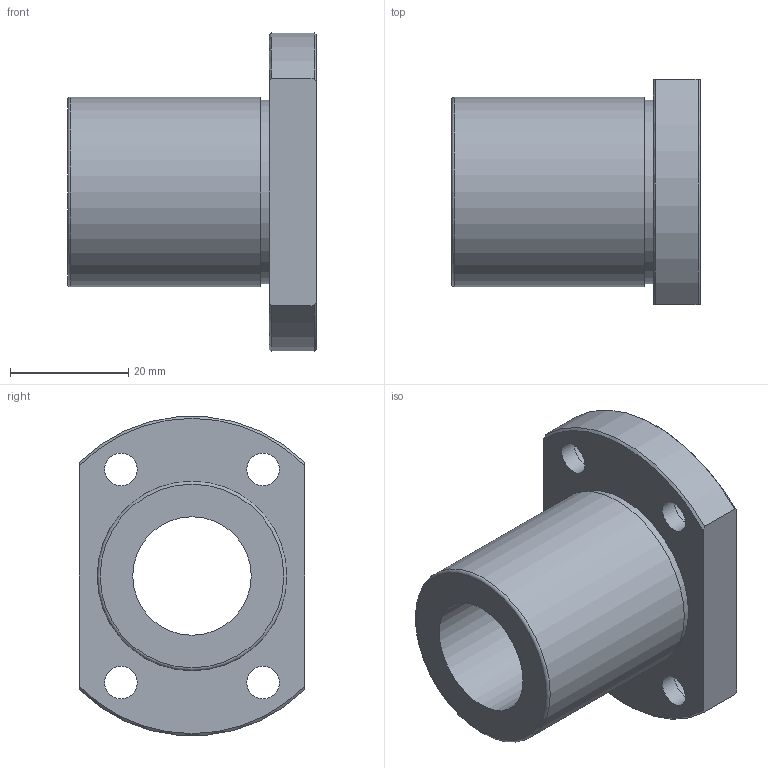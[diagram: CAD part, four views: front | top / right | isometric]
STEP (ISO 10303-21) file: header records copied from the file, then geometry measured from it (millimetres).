
FILE_DESCRIPTION(('STEP AP203'),'1');
FILE_NAME('//192.168.1.1/share/s-4 技術開発/s-4-4_CAD/s-4-4-3_見直し済み/002 修正済み/NFEO-V(済)/NFEO-V_TOP/NFEO-20VUU.step','2022-03-08T01:29:03',(' '),(' '),'Spatial InterOp 3D',' ',' ');
FILE_SCHEMA(('CONFIG_CONTROL_DESIGN'));
Length unit declared in the file: millimetre
Products named in the file (1): 1
Bounding box: 42 x 38 x 53.8 mm (x, y, z)
Volume: 27419.9 mm3; surface area: 11070.5 mm2
Topology: 1 solids, 1 shells, 28 faces, 59 edges, 39 vertices
Faces by surface type: cylinder 13, plane 10, cone 4, torus 1
Full cylindrical faces by diameter (mm): 5.5 x4, 9 x4, 20 x1, 31 x1, 32 x1
Entity records: 778 total; most frequent: CARTESIAN_POINT 139, DIRECTION 128, ORIENTED_EDGE 94, AXIS2_PLACEMENT_3D 60, EDGE_LOOP 56, EDGE_CURVE 47, FACE_OUTER_BOUND 40, VERTEX_POINT 39
